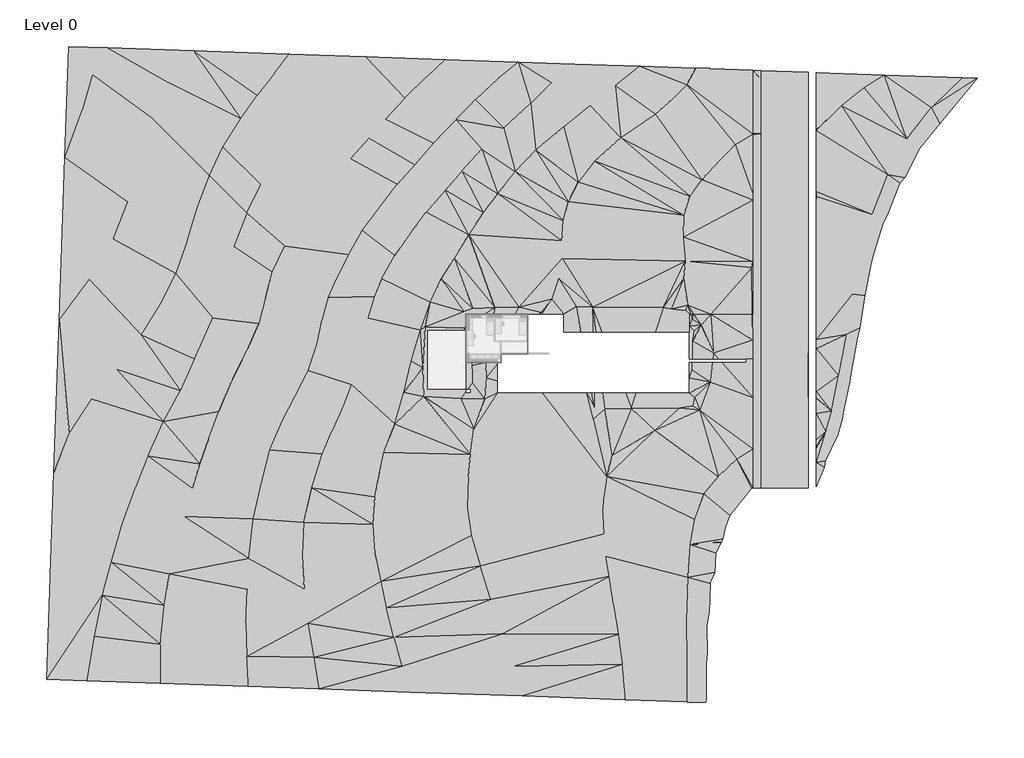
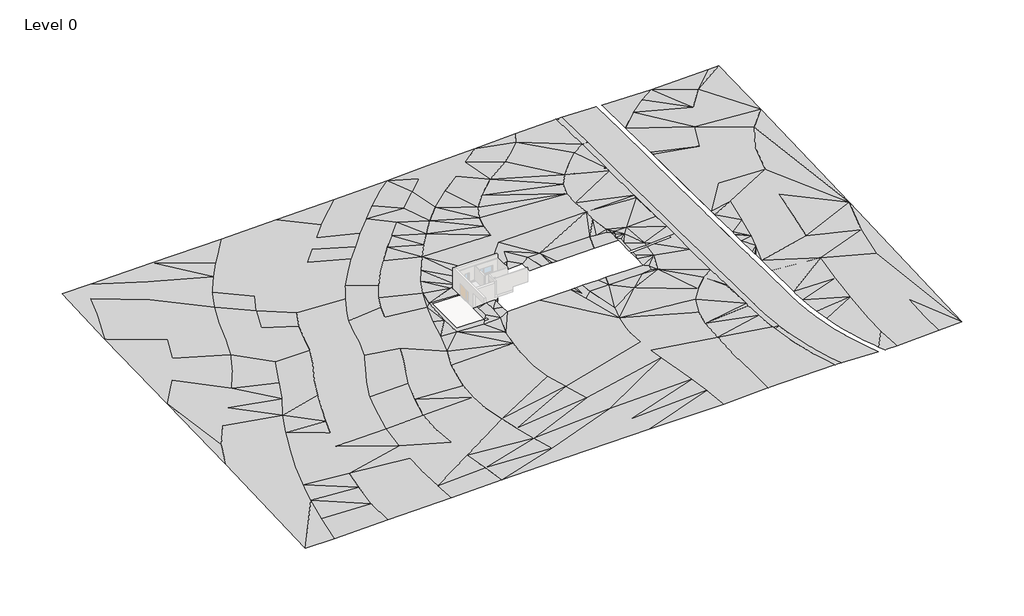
# One storey, part 2 of 2: 5 proxies.
"""IFC4 building model written with IfcOpenShell, lengths in millimetres."""

from ifc_helpers import new_model, si_unit, origin, place, context, project, spatial, triangles, element, save

model = new_model("IFC4")

# Units and contexts
model_context = context("Model", 3, world=origin())
ifc_project = project(units=[si_unit("LENGTHUNIT", "METRE", prefix="MILLI")], contexts=[model_context])

# Site, building, storey
site = spatial("IfcSite", under=ifc_project)
building = spatial("IfcBuilding", under=site)
storey = spatial("IfcBuildingStorey", under=building, Name="Level 0", Elevation=-600.0)

# Proxies
placement = place(None, origin())
element("IfcBuildingElementProxy", 1, Name="Building Element Proxy", at=placement, inside=storey, context=model_context, shape_type="Tessellation", body=[
    triangles([(62675.4813354, 39834.7592285, 500.0000038), (52813.8925781, 40179.1335571, 0.0), (44199.9997559, 40479.9384521, -99.9114706), (44199.9997559, 40477.7757935, -99.8740728), (44199.9997559, 40470.1669556, -99.7612435), (44199.9997559, 33283.15448, 0.0), (44199.9997559, 33281.3429626, 0.0637354), (44199.9997559, 33162.8501953, 1.412361), (44199.9997559, 25459.997113, 92.5713027), (44199.9997559, 24843.6114807, 100.0000008), (44199.9997559, 24154.9302612, 107.5494491), (44199.9997559, 15721.3415497, 200.0000015), (44199.9997559, 15598.8536774, 201.3711024), (44199.9997559, 6787.8083542, 300.0000023), (44199.9997559, 5639.6784348, 351.4946789), (44199.9997559, 167.286119, 427.0918814), (44199.9997559, -580.2686145, 401.8743436), (44199.9997559, -678.7061016, 402.7253454), (44199.9997559, -815.0331728, 404.2993046), (44199.9997559, -2579.7006775, 446.6362189), (44199.9997559, -5884.6937119, 500.0000038), (44199.9997559, -6738.3166077, 500.0000038), (44199.9997559, -6960.7408218, 504.2089039), (44199.9997559, -8790.5395981, 538.8338616), (44199.9997559, -11980.0361938, 603.3105947), (44199.9997559, -12033.5247894, 603.7311722), (44199.9997559, -18725.3419098, 700.0708586), (44199.9997559, -18726.726709, 700.0782709), (44199.9997559, -18728.290567, 700.0847385), (44199.9997559, -18763.760495, 700.5671946), (44199.9997559, -19440.043634, 710.8359718), (44241.6948853, -21521.9537659, 742.51071), (44366.7058594, -23600.5245667, 774.2601528), (44518.5849609, -25112.4601868, 797.4461649), (44535.3234741, -25279.0965271, 800.2659782), (44536.1420288, -25287.203009, 800.3105976), (44545.3414673, -25378.7997437, 801.2867008), (44574.8373413, -25672.4213562, 805.0710629), (44865.7544678, -27734.3280579, 831.7553352), (45238.9875, -29782.9309204, 858.3768934), (45693.9457764, -31814.9487488, 884.8932255), (45842.1925415, -32371.5403564, 892.187039), (45995.034375, -32945.3681213, 900.9259678), (46009.898584, -33001.1809937, 901.3053051), (46229.8898071, -33827.1236023, 912.3891489), (46845.9684814, -35816.227771, 940.7171436), (47541.1865112, -37779.070752, 970.3251474), (47895.8578857, -38665.8887146, 984.470941), (48311.874353, -39706.1019653, 980.0273169), (48314.4369873, -39712.5062256, 980.0480278), (50489.2112183, -39788.4504272, 1000.0000076), (57791.5515381, -40043.4534668, 1500.0000114), (61788.2378174, -40183.0216919, 1800.0000137), (63078.8567139, -3224.5165512, 1500.0000114), (64097.259668, 25938.7399841, 1000.0000076), (64580.1976318, 39768.2470093, 600.0000046), (29032.1976746, 41009.6084473, -500.0000038), (21941.3956055, 41257.2258911, -1000.0000076), (13657.7942505, 41546.4966064, -1500.0000114), (6632.065535, 41791.8397705, -2000.0000153), (-2690.8654037, 42117.4012939, -2500.0000191), (-12716.4098511, 42467.5008545, -3000.0000229), (-22333.341449, 42803.3315186, -3500.0000267), (-34451.2413208, 43226.5010376, -4000.0000305), (-45250.163562, 43603.608252, -4500.0000343), (-50149.8691406, 43774.709436, -4649.9998901), (-50640.5368652, 29723.8461548, -4500.0000343), (-51357.5442627, 9191.3639694, -4000.0000305), (-52030.1078613, -10068.240097, -3500.0000267), (-52941.8289551, -36176.5592651, -3170.0001114), (-47875.0963623, -36353.4926514, -3000.0000229), (-38571.968866, -36678.3658447, -2500.0000191), (-27447.2316284, -37066.8491089, -2000.0000153), (-18591.4814758, -37376.1, -1500.0000114), (-7024.2532242, -37780.0358093, -1000.0000076), (7111.8414825, -38273.677771, -500.0000038), (20142.6147034, -38728.7244141, 0.0), (27859.4460022, -38998.2009888, 500.0000038), (39617.2887817, -39408.7945313, 979.9999929), (39620.4560303, -39408.9061523, 979.9999929), (39615.242395, -39393.1954834, 979.7900494), (39592.0252075, -39323.2369629, 978.824556), (38908.0390503, -37262.2581116, 947.4351929), (38277.0333801, -35090.2860352, 918.016785), (37917.315802, -33651.7901184, 900.9052568), (37900.7447205, -33585.5243958, 900.0000069), (37897.1263367, -33571.053186, 899.8178959), (37891.2336731, -33547.4871826, 899.5252539), (37728.3389648, -32896.0757813, 889.617065), (37262.7301758, -30682.7434387, 859.1798967), (36880.8720886, -28453.4330017, 831.7234331), (36583.3088562, -26211.3186951, 807.286698), (36531.7631653, -25666.0217468, 802.1085983), (36515.5618286, -25494.6182556, 800.0000061), (36509.2459351, -25427.7897766, 799.0163452), (36491.581897, -25240.9337402, 796.3089523), (36370.4613831, -23959.5793945, 775.587252), (36242.6296509, -21701.4195557, 741.8023956), (36199.9996948, -19440.043634, 710.6949921), (36199.9996948, -18606.7293823, 699.7334518), (36199.9996948, -18601.1797211, 699.7258215), (36199.9996948, -18596.641626, 699.7049652), (36199.9996948, -18590.1536499, 699.6456665), (36199.9996948, -17865.8920441, 688.9390526), (36199.9996948, -11959.4700073, 600.0000046), (36199.9996948, -7036.0792465, 500.0000038), (36199.9996948, -556.9180049, 400.0000031), (36199.9996948, 4319.9999748, 332.7890256), (35399.9996887, 4319.9999748, 280.3834853), (35399.9996887, 3839.999913, 286.9985793), (32328.003479, 3839.999913, 85.7614803), (31127.8209229, 3839.999913, 0.0), (29734.1013428, 3839.999913, -61.6543353), (28550.7945007, 3839.999913, -109.999999), (28199.9996338, 3839.999913, -109.999999), (28199.9996338, 3609.8363457, -109.999999), (28199.9996338, 2690.4892639, -109.999999), (28199.9996338, 2561.2526756, -109.999999), (28199.9996338, 1908.4518242, -109.999999), (28199.9996338, 0.0, -109.999999), (27566.6336426, 0.0, -109.999999), (25707.2192322, 0.0, -109.999999), (23958.6794495, 0.0, -109.999999), (21504.6920288, 0.0, -109.999999), (20152.7954773, 0.0, -125.183311), (17283.7787384, 0.0, -125.5294744), (16200.1297668, 0.0, -158.2649581), (15910.6032532, 0.0, -158.236199), (15245.4891998, 0.0, -201.0687226), (9718.2539017, 0.0, -316.5175261), (3959.9998558, 0.0, -461.25444), (3959.9998558, 1533.9425617, -463.7577029), (3959.9998558, 3595.5587288, -500.0000038), (3959.9998558, 3839.999913, -500.0000038), (2489.8087807, 3839.999913, -500.0000038), (717.5372343, 3839.999913, -709.9999763), (0.0, 3839.999913, -709.9999763), (0.0, 7155.9585571, -709.9999763), (0.0, 7858.6488052, -691.9827621), (0.0, 8389.3065308, -712.4012833), (0.0, 8750.4914612, -718.4887024), (0.0, 9960.0001923, -741.8226706), (549.0953719, 9960.0001923, -738.43654), (2390.7577045, 9960.0001923, -736.9701324), (3518.6369705, 9960.0001923, -720.0488543), (6184.2940292, 9960.0001923, -718.6664532), (7800.0000595, 9960.0001923, -603.9825013), (9264.9414551, 9960.0001923, -500.0000038), (9316.5667923, 9960.0001923, -500.0000038), (9590.7122681, 9960.0001923, -494.2738635), (12360.0002106, 9960.0001923, -315.9350761), (12360.0002106, 7679.999826, -332.1779437), (14494.8117645, 7679.999826, -194.6986354), (16066.0984131, 7679.999826, -194.8546397), (16383.3348633, 7679.999826, -185.2713766), (17223.2347595, 7679.999826, -185.1700383), (23916.2518066, 7679.999826, -109.999999), (26317.5424438, 7679.999826, -109.999999), (27613.0377869, 7679.999826, -109.999999), (27867.9710632, 7679.999826, -109.999999), (28199.9996338, 7679.999826, -109.999999), (28199.9996338, 8461.4021301, -109.999999), (28199.9996338, 9512.5891296, -109.999999), (28199.9996338, 9830.969696, -109.999999), (28199.9996338, 9960.0001923, -109.999999), (28291.9149536, 9960.0001923, -109.999999), (28407.5683594, 9960.0001923, -97.5551373), (28792.5332336, 9960.0001923, 0.0), (30928.7726074, 9960.0001923, 37.5463115), (36170.1643066, 9960.0001923, 264.458458), (36199.9996948, 9960.0001923, 264.427864), (36199.9996948, 15865.8920288, 200.0000015), (36199.9996948, 16593.2615845, 192.1385083), (36199.9996948, 24352.2461243, 108.5469173), (36199.9996948, 25139.7096863, 99.9103623), (36199.9996948, 25142.1909302, 99.9101262), (36199.9996948, 25144.3814941, 99.9011514), (36199.9996948, 25146.8185547, 99.8778698), (36199.9996948, 25152.6530823, 99.8128483), (36199.9996948, 25166.5359558, 99.6477875), (36199.9996948, 32703.2852234, 0.0), (36199.9996948, 32724.904834, -0.9608008), (36199.9996948, 40755.7123169, -100.6891393), (36199.9996948, 40759.3027954, -100.7970179), (600.0000046, 0.0, -660.5117907), (0.0, 0.0, -701.8575954), (0.0, 162.9191435, -709.9999763), (0.0, 479.9999891, -709.9999763), (229.9707376, 479.9999891, -709.9999763), (600.0000046, 479.9999891, -684.5014601), (17785.0597687, -10539.9996735, 0.0), (17437.3914551, -12871.6573517, 0.0), (1020.5792747, -4531.0638359, -500.0000038), (518.5041069, -7734.6319565, -500.0000038), (269.882055, -10539.9996735, -500.0000038), (159.9114783, -14508.993457, -500.0000038), (10815.8165588, 11888.7138611, -500.0000038), (11691.8677368, 14459.9999359, -500.0000038), (12137.434726, 16959.4729523, -500.0000038), (655.4314322, -17979.9257812, -500.0000038), (-10346.5091583, -7499.8718674, -1000.0000076), (-11019.1739136, -10539.9996735, -1000.0000076), (-11497.3703064, -13133.3913757, -1000.0000076), (-11757.5323334, -16613.3196625, -1000.0000076), (-11482.3456421, -20106.2308777, -1000.0000076), (-3118.8869522, 14459.9999359, -1000.0000076), (-1502.4372173, 17074.1857178, -1000.0000076), (27492.182373, 14459.9999359, 0.0), (27666.9228699, 16682.0247711, 0.0), (34184.4878357, -8324.7819809, 500.0000038), (31872.168512, -10539.9996735, 500.0000038), (30046.977594, -12763.5383698, 500.0000038), (-8954.5493546, 17345.9063416, -1500.0000114), (-11578.9874176, 12182.533136, -1500.0000114), (-13183.5883118, 6460.6073959, -1500.0000114), (12087.2947632, 19234.2759613, -500.0000038), (-10616.9240479, 14459.9999359, -1500.0000114), (-16332.8019012, 14459.9999359, -2000.0000153), (-18196.6997589, 9135.8714264, -2000.0000153), (-19897.1575928, 2861.2186684, -2000.0000153), (-23189.1380493, -3524.1581451, -2000.0000153), (-24769.0416138, -7218.9215744, -2000.0000153), (-25864.4026611, -11505.3895844, -2000.0000153), (-26865.7415405, -15916.5017303, -2000.0000153), (-20467.3902283, -16330.3799561, -1500.0000114), (-19467.1082611, -11972.8180298, -1500.0000114), (-18138.8870087, -7688.4045456, -1500.0000114), (-15501.0294159, -1549.4827469, -1500.0000114), (-13779.6728577, 3681.9333984, -1500.0000114), (-12421.0069519, 9460.4144073, -1500.0000114), (-22866.0182373, 18570.6315857, -2500.0000191), (-24428.3949646, 15268.9656738, -2500.0000191), (-26157.3452454, 8807.4653091, -2500.0000191), (-27607.0474548, 5450.8405426, -2500.0000191), (-31175.1319885, -2313.5807293, -2500.0000191), (-32441.6337524, -5760.616983, -2500.0000191), (-33596.7330139, -8984.5201996, -2500.0000191), (-34532.6851868, -12038.5221588, -2500.0000191), (-35635.348114, -15592.0994385, -2500.0000191), (-20960.820575, 21543.5291931, -2500.0000191), (-19070.9475586, 24142.4705566, -2500.0000191), (-16802.0151215, 26729.9451782, -2500.0000191), (-14788.6938263, 17511.7241272, -2000.0000153), (-13095.9297089, 20523.1635681, -2000.0000153), (-10897.5615692, 23500.2097595, -2000.0000153), (-8647.2402054, 26403.1488464, -2000.0000153), (-6975.3120255, 20279.1435791, -1500.0000114), (-4994.2248093, 22853.0167053, -1500.0000114), (-2614.1087517, 25655.3270508, -1500.0000114), (361.8462636, 20042.7626587, -1000.0000076), (2201.2583702, 22782.5907715, -1000.0000076), (4025.0816391, 25202.8011841, -1000.0000076), (6258.6296082, 27941.9711975, -1000.0000076), (12318.7748199, 21808.2130371, -500.0000038), (12903.4391327, 24186.8608704, -500.0000038), (16274.1833862, 29288.0122925, -500.0000038), (27455.9171448, 19670.448175, 0.0), (28270.9464661, 24906.2797485, 0.0), (32015.9667114, 29437.5752563, 0.0), (-25870.6953003, 26309.0429626, -3000.0000229), (-27656.3095642, 22737.8144348, -3000.0000229), (-29306.3460571, 18472.584082, -3000.0000229), (-30599.2462097, 13692.0212311, -3000.0000229), (-31952.9286987, 9466.1942871, -3000.0000229), (-34271.8894775, 4278.4179199, -3000.0000229), (-32380.5584106, 27476.360083, -3500.0000267), (-33900.1191467, 23473.5625488, -3500.0000267), (-35196.7097717, 19206.453241, -3500.0000267), (-38595.8976379, 11205.8508911, -3500.0000267), (-41440.5449341, 29594.444751, -4000.0000305), (-30705.2002075, 31085.8002319, -3500.0000267), (-23672.9759583, 29571.7507874, -3000.0000229), (-36036.2027161, 329.8430935, -3000.0000229), (-36500.1836975, -19119.0876434, -2500.0000191), (-29576.7830383, 1556.081472, -2500.0000191), (-25350.2038147, 11954.3168335, -2500.0000191), (-14566.5132019, 29578.5852539, -2500.0000191), (-21555.6098511, -388.1904768, -2000.0000153), (-27410.2687683, -20897.2756165, -2000.0000153), (-20671.5405579, -20486.1983826, -1500.0000114), (-14476.0989532, 1084.1536646, -1500.0000114), (-16860.3557465, -4734.5223473, -1500.0000114), (-521.909931, 28019.824585, -1500.0000114), (-6463.5287292, 28827.9566528, -2000.0000153), (14176.1858643, 26665.7956055, -500.0000038), (1795.4909866, -21816.7241455, -500.0000038), (17261.4998657, -15127.9126556, 0.0), (17663.1962769, -20610.3977783, 0.0), (18068.4250305, -23150.8078308, 0.0), (17389.6315796, -17770.4083374, 0.0), (28246.7107361, -19100.8410828, 500.0000038), (28017.940979, -23279.041864, 500.0000038), (28808.7787537, -15989.1379944, 500.0000038), (-17393.6545898, 12080.7753937, -2000.0000153), (-18805.5974762, 6207.9710724, -2000.0000153), (2368.3175045, -773.4899237, -500.0000038), (44247.1782715, -6739.9636002, 500.0000038), (44216.2592285, 6787.2403656, 300.0000023), (44213.668689, 15720.8636719, 200.0000015), (44280.4925171, 24840.8000244, 100.0000008), (45405.5308228, -4846.0821075, 500.0000038), (46133.030603, -2276.4914234, 500.0000038), (47035.2499512, 2229.5832401, 500.0000038), (36112.1980774, -11959.089798, 600.0000046), (36116.053656, 15873.7834076, 200.0000015), (27991.8588501, 11127.4986969, 0.0), (23819.0321594, -4752.3823036, 0.0), (30833.2807617, 1375.9479904, 0.0), (29494.5973572, -2165.91576, 0.0), (18499.5859222, -7915.4982422, 0.0), (2542.6404396, 1911.5132652, -500.0000038), (9480.2771484, 10154.5139008, -500.0000038), (-4490.6825798, 11500.9665985, -1000.0000076), (-5769.6844528, 7932.4006989, -1000.0000076), (-7859.2063293, 74.3139641, -1000.0000076), (-9011.8882965, -3894.2512527, -1000.0000076), (-6927.6056351, 4074.3969429, -1000.0000076), (-10028.7018127, -27163.437323, -1000.0000076), (-9105.1994614, -30846.8101685, -1000.0000076), (-10781.3861023, -23778.0555908, -1000.0000076), (-8099.0672699, -34512.821283, -1000.0000076), (8826.8693573, 30656.270636, -1000.0000076), (12337.2295074, 33655.4015259, -1000.0000076), (15699.4405609, 36343.2537415, -1000.0000076), (18859.1221161, 38796.1598328, -1000.0000076), (3109.4622368, -26048.5007263, -500.0000038), (4583.7254471, -30410.8367798, -500.0000038), (5956.0300552, -34527.5947998, -500.0000038), (19527.9475708, 32270.4674561, -500.0000038), (23908.9522522, 35235.1353333, -500.0000038), (26075.9478882, 37149.0882751, -500.0000038), (27907.8895569, 38964.2053894, -500.0000038), (-20384.6092346, -24769.1532349, -1500.0000114), (-19959.4654175, -29109.2697144, -1500.0000114), (-19219.3373383, -33364.270459, -1500.0000114), (2020.3673767, 30782.7024536, -1500.0000114), (4766.3506371, 33450.1768433, -1500.0000114), (8173.0889145, 36647.2537903, -1500.0000114), (10804.8172302, 39208.1835205, -1500.0000114), (-4107.6114853, 31581.3537048, -2000.0000153), (-1261.2480148, 34516.5350098, -2000.0000153), (1208.2063396, 37064.6352905, -2000.0000153), (4064.231575, 39763.5310181, -2000.0000153), (-27633.5156067, -24771.0019592, -2000.0000153), (-27781.8925964, -29019.9519104, -2000.0000153), (-27646.7171265, -33283.5358521, -2000.0000153), (-12204.7329437, 32216.9567688, -2500.0000191), (-10167.2712616, 34569.6294434, -2500.0000191), (-7717.243483, 37275.1782532, -2500.0000191), (-4949.7379898, 39936.6785889, -2500.0000191), (-37482.3586304, -22863.6951233, -2500.0000191), (-38055.6282898, -26807.2567383, -2500.0000191), (-38594.4558655, -31719.6661926, -2500.0000191), (-21449.9186279, 32503.4648621, -3000.0000229), (-19081.6317902, 35291.045874, -3000.0000229), (-16786.5602509, 38063.2696838, -3000.0000229), (-14596.5171844, 40422.0303589, -3000.0000229), (-38200.0752869, -3613.1547478, -3000.0000229), (-40141.5823608, -7934.4656891, -3000.0000229), (-41717.769873, -11958.8816711, -3000.0000229), (-43404.387854, -16551.3990234, -3000.0000229), (-44790.4009277, -21373.4744568, -3000.0000229), (-45881.0552856, -25549.7079163, -3000.0000229), (-46933.3957031, -30709.9743347, -3000.0000229), (-28417.2328857, 34688.1780212, -3500.0000267), (-26334.2344482, 37631.0774597, -3500.0000267), (-24204.1086548, 40355.3228027, -3500.0000267), (-36640.9704529, 15097.3121979, -3500.0000267), (-41001.8089233, 7310.767131, -3500.0000267), (-44149.0028687, 3059.9678741, -3500.0000267), (-47258.7990967, -779.7315485, -3500.0000267), (-50065.0836182, -5132.0018646, -3500.0000267), (-47531.4103638, 14353.0041412, -4000.0000305), (-44521.8219727, 19438.3611786, -4000.0000305), (-42694.2544556, 24127.534259, -4000.0000305), (-39700.2093018, 34798.3364136, -4000.0000305), (-37494.0416382, 39199.7282227, -4000.0000305), (-47157.1913452, 40199.225354, -4500.0000343), (-48452.8145874, 35728.7889221, -4500.0000343), (18631.0767334, -26639.6832458, 0.0), (19241.3476227, -30505.6798279, 0.0), (19747.1527954, -34271.9127319, 0.0), (33980.4398254, 31367.4086243, 0.0), (36502.3393799, -25495.4275085, 800.0000061), (37897.8588501, -33585.8987915, 900.0000069), (27795.621991, -28795.5051453, 500.0000038), (27867.5013245, -33694.7781921, 500.0000038), (48005.1395874, 7402.9923157, 500.0000038), (49818.2428711, 17722.8740295, 500.0000038), (48751.1359131, 12488.8132782, 500.0000038), (51292.6970581, 22563.8459839, 500.0000038), (55626.8743652, 32158.5556824, 500.0000038), (58768.8918823, 36043.2394958, 500.0000038), (53245.1918335, 27565.1686157, 500.0000038), (50262.2855347, -35164.0885071, 1000.0000076), (50421.6944092, -30034.5434692, 1000.0000076), (51347.6518433, -19242.60336, 1000.0000076), (50798.9039429, -24737.6109741, 1000.0000076), (52091.7366577, -13433.0486664, 1000.0000076), (54067.1556152, -1581.0279144, 1000.0000076), (55130.4814087, 4657.9639389, 1000.0000076), (53103.7539551, -7149.7856781, 1000.0000076), (56609.4143921, 11566.1905243, 1000.0000076), (58229.7666504, 17469.3209015, 1000.0000076), (60826.1151489, 22217.5275879, 1000.0000076), (57727.3973145, -35608.5683533, 1500.0000114), (57915.4323486, -30457.531604, 1500.0000114), (58615.3198608, -24434.56203, 1500.0000114), (59755.3293457, -17269.5970459, 1500.0000114), (60923.0394653, -10627.3920135, 1500.0000114), (47389.1957886, 36276.5485107, 0.0), (50253.3372437, 38551.6677795, 0.0), (27478.9575989, 22445.5276245, 0.0), (29784.2796753, 26945.6506165, 0.0), (17517.8423584, -1996.3596851, -109.999999), (20894.299054, -1943.8942829, -109.999999), (23851.4371582, -1906.7597763, -109.999999), (26933.5327515, -1907.6464954, -109.999999), (28659.1134705, -1638.7049171, -109.999999), (28867.9797913, -575.3410446, -109.999999), (28528.7493347, 2899.0314766, -109.999999), (27738.3138611, 10448.7901245, -109.999999), (25936.0215454, 10620.690097, -109.999999), (24887.29021, 10772.4285095, -109.999999), (16010.6192413, 10858.9371826, -210.0000089), (13900.6782623, 10902.8949646, -210.0000089), (6713.6913666, 10836.9594543, -750.0000057), (3658.6723183, 10793.0016724, -750.0000057), (867.396183, 10661.1306519, -750.0000057), (-297.7804793, 10288.6824554, -750.0000057), (-233.6642258, 8235.7920639, -709.9999763), (-5132.748912, 8331.4036697, -709.9999763), (-5462.4270447, 3254.3580437, -709.9999763), (-5308.5771332, -460.0173426, -709.9999763), (-627.1454407, -701.7814373, -709.9999763), (823.4390551, 1298.2669762, -709.9999763), (801.4605274, 3452.1651558, -709.9999763), (16230.4046631, -1734.7734718, -150.0000011), (16076.5547516, -3251.2936958, -150.0000011)], [[70, 71, 364], [364, 71, 72], [70, 364, 363], [352, 353, 345], [72, 353, 364], [344, 351, 352], [364, 353, 363], [363, 353, 352], [362, 274, 361], [362, 363, 352], [69, 363, 362], [70, 363, 69], [274, 239, 361], [274, 351, 279], [361, 239, 360], [224, 238, 239], [239, 274, 279], [274, 362, 351], [352, 351, 362], [360, 239, 238], [72, 346, 353], [69, 362, 361], [333, 344, 345], [346, 345, 353], [334, 345, 346], [345, 344, 352], [73, 74, 335], [320, 333, 334], [334, 346, 335], [334, 335, 319], [335, 346, 73], [346, 72, 73], [333, 345, 334], [279, 280, 224], [280, 279, 333], [224, 280, 225], [279, 224, 239], [204, 225, 280], [333, 205, 280], [224, 225, 223], [226, 225, 204], [226, 202, 227], [205, 204, 280], [279, 344, 333], [238, 224, 223], [335, 74, 321], [344, 279, 351], [226, 223, 225], [69, 360, 372], [360, 69, 361], [372, 360, 359], [69, 372, 68], [358, 359, 237], [359, 360, 238], [235, 236, 222], [372, 359, 371], [237, 359, 238], [236, 358, 237], [68, 371, 370], [370, 371, 358], [369, 370, 273], [68, 370, 369], [358, 235, 273], [235, 358, 236], [265, 369, 273], [275, 265, 273], [273, 235, 275], [273, 370, 358], [371, 359, 358], [269, 369, 265], [236, 237, 223], [372, 371, 68], [222, 227, 221], [222, 223, 226], [221, 275, 235], [221, 235, 222], [282, 278, 221], [201, 282, 227], [278, 228, 220], [228, 278, 282], [228, 282, 201], [282, 221, 227], [226, 227, 222], [221, 278, 275], [278, 234, 275], [278, 220, 234], [233, 234, 220], [275, 234, 265], [229, 295, 220], [315, 229, 281], [220, 295, 233], [215, 295, 229], [215, 229, 317], [229, 220, 281], [228, 281, 220], [264, 265, 234], [281, 228, 316], [222, 236, 223], [238, 223, 237], [215, 219, 295], [204, 203, 226], [196, 204, 200], [320, 205, 333], [318, 320, 334], [205, 320, 200], [319, 326, 318], [321, 319, 335], [75, 321, 74], [286, 320, 318], [318, 334, 319], [327, 319, 321], [201, 202, 195], [196, 202, 203], [202, 201, 227], [203, 202, 226], [194, 434, 316], [201, 194, 316], [188, 434, 435], [193, 435, 434], [196, 195, 202], [316, 434, 315], [204, 196, 203], [316, 315, 281], [321, 75, 327], [204, 205, 200], [191, 194, 195], [196, 192, 195], [286, 200, 320], [196, 200, 287], [327, 289, 326], [328, 327, 75], [286, 290, 200], [326, 319, 327], [288, 286, 326], [75, 76, 328], [286, 318, 326], [328, 381, 327], [296, 193, 131], [194, 130, 193], [193, 296, 435], [194, 193, 434], [129, 439, 438], [438, 439, 415], [127, 128, 438], [425, 154, 155], [191, 439, 130], [191, 130, 194], [435, 296, 185], [328, 76, 382], [195, 194, 201], [129, 438, 128], [315, 434, 433], [435, 186, 187], [435, 187, 188], [137, 188, 436], [296, 190, 185], [189, 436, 188], [435, 185, 186], [434, 188, 433], [317, 433, 314], [433, 317, 315], [432, 314, 433], [317, 314, 215], [432, 433, 138], [140, 431, 139], [139, 431, 138], [138, 433, 137], [433, 188, 137], [314, 230, 215], [190, 436, 189], [317, 229, 315], [437, 436, 311], [437, 136, 137], [190, 296, 436], [135, 437, 311], [193, 130, 131], [131, 132, 311], [132, 133, 311], [311, 296, 131], [436, 296, 311], [135, 133, 134], [135, 136, 437], [151, 152, 153], [311, 133, 135], [437, 137, 436], [439, 129, 130], [425, 153, 154], [228, 201, 316], [431, 432, 138], [369, 373, 68], [369, 269, 373], [374, 373, 269], [67, 68, 373], [264, 233, 263], [269, 265, 264], [262, 263, 232], [269, 264, 368], [233, 264, 234], [263, 368, 264], [375, 374, 268], [368, 374, 269], [268, 374, 368], [373, 374, 67], [268, 262, 267], [268, 368, 263], [266, 267, 261], [261, 267, 262], [261, 262, 231], [268, 267, 375], [263, 262, 268], [270, 375, 267], [276, 263, 233], [375, 67, 374], [276, 219, 294], [219, 276, 233], [294, 219, 230], [232, 276, 294], [214, 218, 294], [213, 217, 313], [218, 217, 243], [217, 218, 214], [313, 217, 214], [214, 294, 230], [215, 230, 219], [232, 294, 218], [231, 243, 240], [231, 232, 218], [231, 240, 261], [232, 231, 262], [243, 213, 244], [231, 218, 243], [241, 243, 244], [247, 245, 244], [245, 248, 246], [240, 243, 241], [217, 213, 243], [261, 240, 260], [230, 314, 214], [276, 232, 263], [295, 219, 233], [242, 244, 245], [379, 67, 270], [67, 375, 270], [376, 270, 266], [379, 270, 376], [266, 260, 271], [260, 266, 261], [376, 271, 377], [272, 365, 271], [365, 354, 366], [266, 271, 376], [267, 266, 270], [377, 271, 365], [66, 379, 378], [379, 66, 67], [379, 376, 378], [66, 378, 65], [365, 64, 377], [378, 376, 377], [64, 65, 377], [366, 367, 64], [377, 65, 378], [366, 64, 365], [272, 271, 260], [354, 272, 242], [241, 272, 260], [242, 272, 241], [355, 366, 354], [245, 277, 242], [242, 241, 244], [354, 277, 355], [347, 277, 246], [347, 284, 348], [242, 277, 354], [246, 277, 245], [355, 277, 347], [63, 367, 356], [367, 366, 355], [356, 367, 355], [367, 63, 64], [356, 348, 357], [356, 355, 347], [62, 63, 357], [349, 62, 357], [357, 348, 349], [357, 63, 356], [347, 348, 356], [347, 246, 284], [354, 365, 272], [241, 260, 240], [247, 244, 213], [141, 430, 431], [141, 431, 140], [432, 431, 430], [429, 143, 144], [428, 144, 145], [206, 429, 207], [430, 206, 313], [206, 207, 247], [206, 247, 213], [430, 142, 429], [430, 313, 432], [429, 428, 207], [429, 142, 143], [144, 428, 429], [430, 429, 206], [141, 142, 430], [250, 207, 428], [145, 146, 428], [206, 213, 313], [147, 427, 146], [312, 147, 148], [149, 150, 312], [197, 150, 151], [150, 197, 312], [149, 312, 148], [427, 147, 312], [427, 197, 198], [427, 312, 197], [198, 197, 426], [427, 198, 199], [425, 199, 198], [197, 151, 426], [257, 216, 199], [427, 199, 250], [216, 257, 254], [425, 198, 426], [153, 426, 151], [428, 427, 250], [153, 425, 426], [146, 427, 428], [250, 199, 216], [249, 246, 248], [247, 207, 248], [246, 249, 284], [340, 348, 284], [250, 251, 249], [250, 216, 251], [249, 283, 284], [283, 249, 251], [283, 252, 336], [250, 249, 248], [207, 250, 248], [284, 283, 340], [350, 349, 341], [349, 348, 340], [341, 349, 340], [350, 61, 62], [342, 341, 337], [336, 341, 340], [61, 342, 343], [61, 350, 342], [341, 336, 337], [342, 350, 341], [340, 283, 336], [350, 62, 349], [283, 251, 252], [245, 247, 248], [253, 337, 336], [253, 252, 254], [337, 253, 322], [337, 343, 342], [255, 322, 253], [285, 255, 413], [322, 285, 323], [285, 322, 255], [413, 255, 254], [255, 253, 254], [251, 216, 252], [337, 322, 338], [343, 338, 60], [338, 343, 337], [60, 338, 339], [343, 60, 61], [323, 324, 339], [256, 324, 323], [339, 59, 60], [59, 339, 324], [324, 325, 59], [323, 339, 338], [338, 322, 323], [256, 323, 285], [336, 252, 253], [254, 252, 216], [209, 199, 425], [214, 314, 313], [432, 313, 314], [127, 438, 126], [328, 382, 381], [381, 380, 327], [382, 77, 387], [381, 382, 387], [381, 387, 386], [387, 77, 78], [90, 386, 387], [384, 386, 92], [381, 386, 380], [289, 380, 292], [289, 327, 380], [380, 386, 292], [289, 292, 288], [384, 95, 96], [95, 384, 94], [97, 292, 96], [96, 292, 384], [386, 384, 292], [292, 97, 98], [387, 78, 84], [289, 288, 326], [87, 385, 86], [385, 87, 88], [86, 385, 85], [82, 83, 78], [85, 385, 387], [83, 84, 78], [387, 84, 85], [384, 93, 94], [93, 384, 92], [88, 89, 385], [90, 91, 386], [89, 90, 387], [92, 386, 91], [385, 89, 387], [78, 79, 82], [192, 287, 293], [290, 287, 200], [293, 287, 290], [191, 195, 192], [291, 293, 290], [288, 292, 291], [307, 191, 212], [191, 192, 293], [291, 104, 293], [290, 288, 291], [290, 286, 288], [310, 439, 191], [415, 310, 416], [415, 439, 310], [416, 310, 307], [125, 415, 416], [307, 418, 417], [419, 418, 309], [416, 417, 124], [418, 122, 417], [309, 418, 307], [307, 417, 416], [310, 191, 307], [121, 418, 419], [212, 191, 293], [438, 415, 126], [104, 212, 293], [103, 291, 102], [100, 291, 99], [101, 102, 291], [101, 291, 100], [103, 104, 291], [307, 211, 309], [211, 307, 212], [211, 212, 304], [309, 211, 210], [304, 105, 210], [304, 212, 104], [210, 106, 309], [106, 210, 105], [304, 210, 211], [104, 105, 304], [107, 309, 106], [99, 291, 98], [292, 98, 291], [420, 419, 309], [382, 76, 77], [81, 79, 80], [79, 81, 82], [41, 42, 396], [40, 41, 396], [36, 398, 35], [35, 398, 34], [40, 396, 39], [38, 398, 37], [37, 398, 36], [39, 398, 38], [42, 43, 396], [48, 49, 51], [395, 47, 48], [51, 52, 406], [395, 48, 51], [50, 51, 49], [406, 52, 53], [395, 44, 45], [395, 45, 46], [395, 406, 407], [395, 46, 47], [396, 398, 39], [407, 396, 395], [406, 53, 407], [395, 396, 44], [51, 406, 395], [44, 396, 43], [53, 408, 407], [398, 396, 407], [24, 25, 399], [25, 26, 399], [397, 27, 28], [397, 28, 29], [399, 26, 27], [29, 30, 397], [302, 18, 19], [20, 302, 19], [22, 23, 297], [297, 21, 22], [301, 20, 21], [24, 301, 23], [30, 31, 397], [32, 33, 398], [398, 33, 34], [32, 398, 397], [397, 408, 409], [408, 397, 398], [399, 409, 410], [409, 399, 397], [53, 409, 408], [399, 27, 397], [398, 407, 408], [402, 24, 399], [301, 302, 20], [297, 23, 301], [302, 301, 402], [301, 21, 297], [402, 410, 54], [24, 402, 301], [400, 54, 401], [54, 400, 402], [409, 53, 410], [402, 400, 302], [399, 410, 402], [18, 302, 17], [54, 410, 53], [31, 32, 397], [303, 302, 400], [126, 415, 125], [125, 416, 124], [123, 417, 122], [122, 418, 121], [417, 123, 124], [156, 157, 424], [424, 425, 156], [159, 160, 162], [158, 159, 162], [157, 158, 424], [117, 118, 421], [308, 119, 120], [119, 308, 421], [421, 118, 119], [107, 111, 308], [114, 116, 421], [116, 117, 421], [421, 308, 113], [120, 420, 308], [121, 419, 120], [115, 116, 114], [421, 113, 114], [308, 112, 113], [111, 112, 308], [111, 107, 110], [420, 309, 308], [120, 419, 420], [160, 161, 162], [199, 209, 257], [424, 158, 423], [208, 424, 423], [413, 254, 257], [305, 209, 208], [423, 306, 208], [258, 256, 413], [413, 174, 258], [209, 173, 257], [209, 424, 208], [423, 163, 422], [285, 413, 256], [329, 325, 324], [329, 256, 258], [325, 329, 330], [329, 324, 256], [330, 331, 58], [259, 331, 330], [58, 332, 57], [332, 58, 331], [332, 331, 383], [330, 58, 325], [329, 414, 330], [325, 58, 59], [422, 306, 423], [424, 209, 425], [165, 422, 164], [164, 422, 163], [167, 422, 166], [167, 168, 306], [167, 306, 422], [166, 422, 165], [259, 330, 414], [174, 413, 257], [414, 329, 258], [169, 208, 306], [414, 180, 259], [174, 414, 258], [332, 183, 57], [180, 383, 259], [305, 208, 169], [383, 331, 259], [306, 168, 169], [182, 332, 383], [423, 158, 163], [162, 163, 158], [425, 155, 156], [110, 108, 109], [108, 110, 107], [15, 16, 303], [14, 15, 298], [309, 107, 308], [172, 305, 170], [305, 169, 170], [172, 170, 171], [174, 257, 173], [172, 173, 305], [209, 305, 173], [16, 17, 302], [174, 175, 414], [390, 13, 298], [298, 13, 14], [388, 15, 303], [298, 15, 388], [388, 401, 403], [401, 388, 303], [13, 390, 299], [403, 390, 388], [403, 54, 404], [388, 390, 298], [302, 303, 16], [389, 390, 403], [12, 299, 11], [299, 12, 13], [11, 299, 389], [389, 404, 391], [389, 299, 390], [11, 391, 300], [405, 391, 404], [404, 54, 405], [389, 391, 11], [403, 404, 389], [394, 391, 405], [401, 54, 403], [400, 401, 303], [177, 414, 176], [414, 177, 178], [414, 179, 180], [383, 180, 181], [178, 179, 414], [183, 332, 182], [183, 184, 57], [394, 8, 9], [8, 411, 7], [181, 182, 383], [9, 10, 300], [175, 176, 414], [6, 7, 411], [9, 300, 391], [8, 394, 411], [6, 411, 5], [394, 55, 392], [9, 391, 394], [411, 392, 412], [393, 392, 55], [55, 56, 393], [394, 392, 411], [405, 55, 394], [2, 392, 393], [4, 5, 412], [3, 4, 412], [1, 2, 393], [1, 393, 56], [2, 412, 392], [412, 2, 3], [5, 411, 412], [10, 11, 300], [405, 54, 55], [196, 287, 192]], closed=False),
])
element("IfcBuildingElementProxy", 2, Name="Building Element Proxy", at=placement, inside=storey, context=model_context, shape_type="Tessellation", body=[
    triangles([(43181.6805176, 40515.4990723, -100.0000008), (37203.5361145, 40724.2584229, -100.0000008), (37199.9991211, 40724.3839966, -100.0000008), (37199.9991211, 39671.6947632, -86.6964796), (37199.9991211, 32813.720343, 0.0), (37199.9991211, 32782.3641174, 0.3775577), (37199.9991211, 25025.3120178, 100.0000008), (37199.9991211, 15908.9126587, 198.5837907), (37199.9991211, 15779.7519379, 200.0000015), (37199.9991211, 15651.9027649, 201.4311097), (37199.9991211, 6719.0625504, 300.0000023), (37199.9991211, 6686.3662903, 300.4406549), (37199.9991211, -516.6359433, 400.0000031), (37199.9991211, -544.085794, 400.4496486), (37199.9991211, -6997.0037247, 500.0000038), (37199.9991211, -6998.7687332, 500.0334683), (37199.9991211, -11963.7174225, 600.0000046), (37199.9991211, -18366.1940643, 696.1991472), (37199.9991211, -18619.0902557, 700.0000053), (37199.9991211, -18662.7050354, 700.6330336), (37199.9991211, -19440.043634, 712.0087927), (37243.5825073, -21707.3866333, 745.2285673), (37374.2652283, -23971.3809998, 778.4773373), (37479.7959961, -25066.1630127, 794.5930687), (37513.2939514, -25413.6743591, 799.6886152), (37515.3008057, -25434.4893677, 800.0000061), (37542.2945068, -25714.5094849, 803.4851131), (37591.8565979, -26228.680426, 809.8311647), (37896.0333801, -28475.9502319, 837.7060621), (38286.3490906, -30709.8696899, 865.554217), (38695.5078369, -32616.2951843, 889.4398956), (38762.2223694, -32927.1413269, 893.3128424), (38880.3128357, -33389.9061035, 899.0808043), (38898.2815063, -33460.3157593, 900.0000069), (39159.5167236, -34484.0276917, 913.6351484), (39322.9532593, -35124.4862732, 922.2167467), (39967.7139038, -37298.6582153, 951.3063229), (40695.5531982, -39446.4480469, 979.9999929), (40728.360498, -39447.5921631, 979.9999929), (47214.4576172, -39674.0946167, 979.9999929), (46380.4620117, -37523.5607666, 953.9988184), (45640.8234375, -35338.7778442, 927.5374249), (44996.94646, -33123.880481, 900.6660273), (44988.3376831, -33088.5965881, 900.2372017), (44983.9844604, -33070.7720947, 900.0000069), (44450.0496094, -30883.066095, 871.4600338), (44001.1700317, -28620.5786133, 842.0294174), (43651.1588379, -26340.7038208, 812.4567312), (43569.1266357, -25589.7984924, 802.743952), (43545.8861938, -25377.0649658, 800.0000061), (43537.044873, -25296.1210693, 798.7576401), (43514.4369507, -25089.177887, 795.6694565), (43400.6718018, -24047.7577332, 780.0871954), (43250.1926147, -21746.0842712, 745.6623344), (43200.0003296, -19440.043634, 711.1860958), (43200.0003296, -18717.1447357, 700.380578), (43200.0003296, -18691.7369843, 700.0000053), (43200.0003296, -18682.6538177, 699.8644758), (43200.0003296, -11988.0205902, 600.0000046), (43200.0003296, -11640.558078, 593.4250062), (43200.0003296, -8782.1186005, 539.3352845), (43200.0003296, -6707.3708221, 500.0000038), (43200.0003296, -6656.3843994, 499.2134239), (43200.0003296, -3825.6746246, 452.8434345), (43200.0003296, -699.7119415, 402.3703526), (43200.0003296, -600.9115405, 400.0000031), (43200.0003296, -560.0916484, 401.3769902), (43200.0003296, 5044.39384, 323.9550445), (43200.0003296, 6821.8510437, 300.0000023), (43200.0003296, 6846.8942825, 299.7236565), (43200.0003296, 15755.8208405, 200.0000015), (43200.0003296, 24756.1121704, 101.3148006), (43200.0003296, 24877.6954468, 100.0000008), (43200.0003296, 24981.1495972, 98.6713482), (43200.0003296, 32874.7026672, 3.6300556), (43200.0003296, 33152.5089661, 0.2819413), (43200.0003296, 33176.3330933, 0.0), (43200.0003296, 40385.2140015, -98.1988571), (43200.0003296, 40514.857251, -100.0000008), (37204.4453613, -18619.1739716, 700.0000053), (43198.7445923, -18691.6928009, 700.0000053), (43126.3025024, -11985.4474915, 600.0000046), (43146.4501099, -599.0415602, 400.0000031), (43196.9447021, 33176.0098572, 0.0), (43528.7291016, -25378.7648621, 800.0000061)], [[22, 23, 54], [25, 52, 24], [24, 53, 23], [52, 25, 26], [80, 20, 56], [56, 20, 21], [21, 22, 55], [81, 18, 80], [20, 80, 19], [27, 52, 26], [35, 45, 34], [37, 38, 39], [36, 43, 35], [46, 33, 34], [29, 48, 28], [29, 30, 47], [46, 30, 31], [32, 46, 31], [46, 32, 33], [85, 27, 28], [36, 37, 42], [19, 80, 18], [9, 71, 8], [74, 6, 7], [1, 4, 78], [6, 75, 5], [4, 5, 84], [3, 4, 2], [9, 10, 71], [61, 16, 17], [64, 14, 15], [16, 62, 15], [17, 82, 60], [14, 65, 83], [17, 18, 82], [11, 12, 69], [2, 4, 1], [13, 14, 83], [68, 12, 13], [7, 8, 72], [70, 10, 11], [83, 68, 13], [18, 58, 82], [37, 39, 42], [53, 54, 23], [52, 85, 51], [52, 53, 24], [51, 85, 50], [27, 85, 52], [58, 59, 82], [58, 81, 57], [81, 56, 57], [81, 80, 56], [21, 55, 56], [54, 55, 22], [43, 44, 35], [41, 42, 39], [40, 41, 39], [43, 36, 42], [49, 50, 85], [49, 85, 28], [46, 47, 30], [45, 46, 34], [48, 29, 47], [44, 45, 35], [28, 48, 49], [14, 64, 65], [63, 64, 15], [15, 62, 63], [65, 66, 83], [68, 83, 67], [66, 67, 83], [68, 69, 12], [71, 10, 70], [11, 69, 70], [71, 72, 8], [61, 62, 16], [17, 60, 61], [74, 7, 73], [75, 6, 74], [76, 84, 75], [77, 84, 76], [78, 79, 1], [77, 78, 84], [5, 75, 84], [7, 72, 73], [59, 60, 82], [78, 4, 84], [58, 18, 81]], closed=False),
])
element("IfcBuildingElementProxy", 3, Name="Building Element Proxy", at=placement, inside=storey, context=model_context, shape_type="Tessellation", body=[
    triangles([(36214.3104492, 40758.8051514, -100.0000008), (36199.9996948, 40759.3027954, -100.7970179), (36199.9996948, 40755.7123169, -100.6891393), (36199.9996948, 32724.904834, -0.9608008), (36199.9996948, 32703.2852234, 0.0), (36199.9996948, 25166.5359558, 99.6477875), (36199.9996948, 25152.6530823, 99.8128483), (36199.9996948, 25146.8185547, 99.8778698), (36199.9996948, 25144.3814941, 99.9011514), (36199.9996948, 25142.1909302, 99.9101262), (36199.9996948, 25139.7096863, 99.9103623), (36199.9996948, 24352.2461243, 108.5469173), (36199.9996948, 16593.2615845, 192.1385083), (36199.9996948, 15865.8920288, 200.0000015), (36199.9996948, 6699.2172501, 300.0000023), (36199.9996948, -556.9180049, 400.0000031), (36199.9996948, -7036.0792465, 500.0000038), (36199.9996948, -11959.4700073, 600.0000046), (36199.9996948, -17865.8920441, 688.9390526), (36199.9996948, -18590.1536499, 699.6456665), (36199.9996948, -18596.641626, 699.7049652), (36199.9996948, -18601.1797211, 699.7258215), (36199.9996948, -18606.7293823, 699.7334518), (36199.9996948, -19440.043634, 710.6949921), (36242.6296509, -21701.4195557, 741.8023956), (36370.4613831, -23959.5793945, 775.587252), (36491.581897, -25240.9337402, 796.3089523), (36509.2459351, -25427.7897766, 799.0163452), (36515.5618286, -25494.6182556, 800.0000061), (36531.7631653, -25666.0217468, 802.1085983), (36583.3088562, -26211.3186951, 807.286698), (36880.8720886, -28453.4330017, 831.7234331), (37262.7301758, -30682.7434387, 859.1798967), (37728.3389648, -32896.0757813, 889.617065), (37891.2336731, -33547.4871826, 899.5252539), (37897.1263367, -33571.053186, 899.8178959), (37900.7447205, -33585.5243958, 900.0000069), (37917.315802, -33651.7901184, 900.9052568), (38277.0333801, -35090.2860352, 918.016785), (38908.0390503, -37262.2581116, 947.4351929), (39592.0252075, -39323.2369629, 978.824556), (39615.242395, -39393.1954834, 979.7900494), (39620.4560303, -39408.9061523, 979.9999929), (40695.5531982, -39446.4480469, 979.9999929), (39967.7139038, -37298.6582153, 951.3063229), (39322.9532593, -35124.4862732, 922.2167467), (39159.5167236, -34484.0276917, 913.6351484), (38898.2815063, -33460.3157593, 900.0000069), (38880.3128357, -33389.9061035, 899.0808043), (38762.2223694, -32927.1413269, 893.3128424), (38695.5078369, -32616.2951843, 889.4398956), (38286.3490906, -30709.8696899, 865.554217), (37896.0333801, -28475.9502319, 837.7060621), (37591.8565979, -26228.680426, 809.8311647), (37542.2945068, -25714.5094849, 803.4851131), (37515.3008057, -25434.4893677, 800.0000061), (37513.2939514, -25413.6743591, 799.6886152), (37479.7959961, -25066.1630127, 794.5930687), (37374.2652283, -23971.3809998, 778.4773373), (37243.5825073, -21707.3866333, 745.2285673), (37199.9991211, -19440.043634, 712.0087927), (37199.9991211, -18662.7050354, 700.6330336), (37199.9991211, -18619.0902557, 700.0000053), (37199.9991211, -18366.1940643, 696.1991472), (37199.9991211, -11963.7174225, 600.0000046), (37199.9991211, -6998.7687332, 500.0334683), (37199.9991211, -6997.0037247, 500.0000038), (37199.9991211, -544.085794, 400.4496486), (37199.9991211, -516.6359433, 400.0000031), (37199.9991211, 6686.3662903, 300.4406549), (37199.9991211, 6719.0625504, 300.0000023), (37199.9991211, 15651.9027649, 201.4311097), (37199.9991211, 15779.7519379, 200.0000015), (37199.9991211, 15908.9126587, 198.5837907), (37199.9991211, 25025.3120178, 100.0000008), (37199.9991211, 32782.3641174, 0.3775577), (37199.9991211, 32813.720343, 0.0), (37199.9991211, 39671.6947632, -86.6964796), (37199.9991211, 40724.3839966, -100.0000008), (37087.5036621, -11963.304657, 600.0000046), (37198.0155212, -6997.0990677, 500.0000038), (37172.6821838, -516.257369, 400.0000031), (37173.6821228, 6718.6114151, 300.0000023), (37112.6416626, 15780.1007538, 200.0000015), (37183.8559204, 25025.7073425, 100.0000008), (36210.9199585, -18600.4937164, 700.0000053), (36207.8457275, 25144.618689, 100.0000008), (37176.9540161, 32812.3297302, 0.0), (37495.5368958, -25434.6730774, 800.0000061), (38837.1898865, -33464.2271484, 900.0000069), (36215.9638367, 32712.8916138, 0.0)], [[23, 24, 86], [22, 86, 21], [86, 22, 23], [21, 86, 20], [19, 86, 64], [19, 80, 18], [19, 20, 86], [80, 17, 18], [82, 15, 16], [16, 17, 81], [80, 19, 65], [28, 89, 27], [55, 30, 31], [29, 30, 89], [29, 89, 28], [25, 61, 24], [26, 60, 25], [68, 82, 16], [80, 66, 17], [70, 15, 82], [81, 17, 66], [59, 26, 27], [62, 86, 24], [31, 32, 54], [83, 15, 70], [87, 8, 9], [11, 87, 10], [10, 87, 9], [87, 7, 8], [78, 3, 4], [91, 4, 5], [87, 6, 7], [91, 5, 76], [2, 3, 1], [12, 87, 11], [12, 85, 87], [14, 74, 13], [87, 85, 6], [84, 74, 14], [72, 84, 14], [83, 72, 15], [12, 13, 75], [72, 14, 15], [5, 6, 76], [1, 3, 78], [91, 88, 4], [91, 76, 88], [4, 88, 78], [78, 79, 1], [77, 78, 88], [88, 76, 77], [76, 6, 85], [85, 12, 75], [16, 81, 68], [35, 50, 34], [37, 90, 36], [36, 90, 35], [37, 38, 90], [32, 53, 54], [52, 33, 34], [55, 31, 54], [52, 53, 33], [51, 52, 34], [51, 34, 50], [38, 39, 47], [45, 40, 41], [44, 41, 42], [44, 45, 41], [44, 42, 43], [40, 45, 46], [50, 90, 49], [50, 35, 90], [49, 90, 48], [47, 48, 90], [90, 38, 47], [46, 47, 39], [40, 46, 39], [63, 86, 62], [65, 66, 80], [19, 64, 65], [64, 86, 63], [76, 85, 75], [75, 13, 74], [72, 73, 84], [74, 84, 73], [66, 67, 81], [72, 83, 71], [24, 61, 62], [27, 58, 59], [27, 89, 58], [58, 89, 57], [56, 57, 89], [55, 56, 89], [30, 55, 89], [70, 71, 83], [68, 69, 82], [67, 68, 81], [69, 70, 82], [60, 26, 59], [25, 60, 61], [32, 33, 53]], closed=False),
])
element("IfcBuildingElementProxy", 4, Name="Building Element Proxy", at=placement, inside=storey, context=model_context, shape_type="Tessellation", body=[
    triangles([(7800.0000595, 9960.0001923, -1000.1595182), (7800.0000595, 9960.0001923, -400.1595137), (7800.0000595, 8636.7135223, -1000.1595182), (7800.0000595, 8636.7135223, -400.1595137), (7800.0000595, 8158.0811096, -1000.1595182), (7800.0000595, 8158.0811096, -400.1595137), (7800.0000595, 4920.0002701, -1000.1595182), (7800.0000595, 4920.0002701, -400.1595137), (5074.7024551, 4920.0002701, -1000.1595182), (5074.7024551, 4920.0002701, -400.1595137), (4439.9999176, 4920.0002701, -1000.1595182), (4439.9999176, 4920.0002701, -400.1595137), (4439.9999176, 4165.8739174, -1000.1595182), (4439.9999176, 4165.8739174, -400.1595137), (4439.9999176, 3839.999913, -1000.1595182), (4439.9999176, 3839.999913, -400.1595137), (4165.7314842, 3839.999913, -1000.1595182), (4165.7314842, 3839.999913, -400.1595137), (3959.9998558, 3839.999913, -1000.1595182), (3959.9998558, 3839.999913, -400.1595137)], [[1, 4, 2], [1, 3, 4], [3, 6, 4], [3, 5, 6], [5, 8, 6], [5, 7, 8], [7, 10, 8], [7, 9, 10], [9, 12, 10], [9, 11, 12], [11, 14, 12], [11, 13, 14], [13, 16, 14], [13, 15, 16], [15, 18, 16], [15, 17, 18], [17, 20, 18], [17, 19, 20]], closed=False),
    triangles([(7800.0000595, 9960.0001923, -1000.1595182), (7800.0000595, 9960.0001923, -603.9825013), (6184.2940292, 9960.0001923, -1000.1595182), (6184.2940292, 9960.0001923, -718.6664532), (3518.6369705, 9960.0001923, -1000.1595182), (3518.6369705, 9960.0001923, -720.0488543), (2390.7577045, 9960.0001923, -1000.1595182), (2390.7577045, 9960.0001923, -736.9701324), (549.0953719, 9960.0001923, -1000.1595182), (549.0953719, 9960.0001923, -738.43654), (0.0, 9960.0001923, -1000.1595182), (0.0, 9960.0001923, -741.8226706), (0.0, 8750.4914612, -1000.1595182), (0.0, 8750.4914612, -718.4887024), (0.0, 8389.3065308, -1000.1595182), (0.0, 8389.3065308, -712.4012833), (0.0, 7858.6488052, -1000.1595182), (0.0, 7858.6488052, -691.9827621), (0.0, 7155.9585571, -1000.1595182), (0.0, 7155.9585571, -709.9999763), (0.0, 3839.999913, -1000.1595182), (0.0, 3839.999913, -709.9999763), (717.5372343, 3839.999913, -1000.1595182), (717.5372343, 3839.999913, -709.9999763), (2489.8087807, 3839.999913, -1000.1595182), (2489.8087807, 3839.999913, -500.0000038), (3959.9998558, 3839.999913, -1000.1595182), (3959.9998558, 3839.999913, -500.0000038)], [[1, 4, 2], [1, 3, 4], [3, 6, 4], [3, 5, 6], [5, 8, 6], [5, 7, 8], [7, 10, 8], [7, 9, 10], [9, 12, 10], [9, 11, 12], [11, 14, 12], [11, 13, 14], [13, 16, 14], [13, 15, 16], [15, 18, 16], [15, 17, 18], [17, 20, 18], [17, 19, 20], [19, 22, 20], [19, 21, 22], [21, 24, 22], [21, 23, 24], [23, 26, 24], [23, 25, 26], [25, 28, 26], [25, 27, 28]], closed=False),
    triangles([(7800.0000595, 9960.0001923, -1000.1595182), (7800.0000595, 9960.0001923, -603.9825013), (6184.2940292, 9960.0001923, -1000.1595182), (6184.2940292, 9960.0001923, -718.6664532), (3518.6369705, 9960.0001923, -1000.1595182), (3518.6369705, 9960.0001923, -720.0488543), (2390.7577045, 9960.0001923, -1000.1595182), (2390.7577045, 9960.0001923, -736.9701324), (549.0953719, 9960.0001923, -1000.1595182), (549.0953719, 9960.0001923, -738.43654), (0.0, 9960.0001923, -1000.1595182), (0.0, 9960.0001923, -741.8226706), (0.0, 8750.4914612, -1000.1595182), (0.0, 8750.4914612, -718.4887024), (0.0, 8389.3065308, -1000.1595182), (0.0, 8389.3065308, -712.4012833), (0.0, 7858.6488052, -1000.1595182), (0.0, 7858.6488052, -691.9827621), (0.0, 7155.9585571, -1000.1595182), (0.0, 7155.9585571, -709.9999763), (0.0, 3839.999913, -1000.1595182), (0.0, 3839.999913, -709.9999763), (717.5372343, 3839.999913, -1000.1595182), (717.5372343, 3839.999913, -709.9999763), (2489.8087807, 3839.999913, -1000.1595182), (2489.8087807, 3839.999913, -500.0000038), (3959.9998558, 3839.999913, -1000.1595182), (3959.9998558, 3839.999913, -500.0000038)], [[1, 4, 2], [1, 3, 4], [3, 6, 4], [3, 5, 6], [5, 8, 6], [5, 7, 8], [7, 10, 8], [7, 9, 10], [9, 12, 10], [9, 11, 12], [11, 14, 12], [11, 13, 14], [13, 16, 14], [13, 15, 16], [15, 18, 16], [15, 17, 18], [17, 20, 18], [17, 19, 20], [19, 22, 20], [19, 21, 22], [21, 24, 22], [21, 23, 24], [23, 26, 24], [23, 25, 26], [25, 28, 26], [25, 27, 28]], closed=False),
    triangles([(7800.0000595, 9960.0001923, -1000.1595182), (7800.0000595, 9960.0001923, -400.1595137), (7800.0000595, 4920.0002701, -1000.1595182), (7800.0000595, 4920.0002701, -400.1595137), (4439.9999176, 4920.0002701, -1000.1595182), (4439.9999176, 4920.0002701, -400.1595137), (4439.9999176, 3839.999913, -1000.1595182), (4439.9999176, 3839.999913, -400.1595137), (3959.9998558, 3839.999913, -1000.1595182), (3959.9998558, 3839.999913, -400.1595137)], [[1, 4, 2], [1, 3, 4], [3, 6, 4], [3, 5, 6], [5, 8, 6], [5, 7, 8], [7, 10, 8], [7, 9, 10]], closed=False),
    triangles([(7800.0000595, 9960.0001923, -1000.1595182), (7800.0000595, 9960.0001923, -400.1595137), (7800.0000595, 4920.0002701, -1000.1595182), (7800.0000595, 4920.0002701, -400.1595137), (4439.9999176, 4920.0002701, -1000.1595182), (4439.9999176, 4920.0002701, -400.1595137), (4439.9999176, 3839.999913, -1000.1595182), (4439.9999176, 3839.999913, -400.1595137), (3959.9998558, 3839.999913, -1000.1595182), (3959.9998558, 3839.999913, -400.1595137)], [[1, 4, 2], [1, 3, 4], [3, 6, 4], [3, 5, 6], [5, 8, 6], [5, 7, 8], [7, 10, 8], [7, 9, 10]], closed=False),
    triangles([(7800.0000595, 9960.0001923, -1000.1595182), (7800.0000595, 9960.0001923, -400.1595137), (7800.0000595, 4920.0002701, -1000.1595182), (7800.0000595, 4920.0002701, -400.1595137), (4439.9999176, 4920.0002701, -1000.1595182), (4439.9999176, 4920.0002701, -400.1595137), (4439.9999176, 3839.999913, -1000.1595182), (4439.9999176, 3839.999913, -400.1595137), (3959.9998558, 3839.999913, -1000.1595182), (3959.9998558, 3839.999913, -400.1595137)], [[1, 4, 2], [1, 3, 4], [3, 6, 4], [3, 5, 6], [5, 8, 6], [5, 7, 8], [7, 10, 8], [7, 9, 10]], closed=False),
    triangles([(7800.0000595, 9960.0001923, -1000.1595182), (7800.0000595, 9960.0001923, -400.1595137), (7800.0000595, 4920.0002701, -1000.1595182), (7800.0000595, 4920.0002701, -400.1595137), (4439.9999176, 4920.0002701, -1000.1595182), (4439.9999176, 4920.0002701, -400.1595137), (4439.9999176, 3839.999913, -1000.1595182), (4439.9999176, 3839.999913, -400.1595137), (3959.9998558, 3839.999913, -1000.1595182), (3959.9998558, 3839.999913, -400.1595137)], [[1, 4, 2], [1, 3, 4], [3, 6, 4], [3, 5, 6], [5, 8, 6], [5, 7, 8], [7, 10, 8], [7, 9, 10]], closed=False),
    triangles([(7800.0000595, 9960.0001923, -1000.1595182), (0.0, 9960.0001923, -1000.1595182), (0.0, 3839.999913, -1000.1595182), (4439.9999176, 3839.999913, -1000.1595182), (4439.9999176, 4920.0002701, -1000.1595182), (7800.0000595, 4920.0002701, -1000.1595182)], [[2, 3, 5], [5, 3, 4], [2, 5, 1], [6, 1, 5]], closed=False),
])
element("IfcBuildingElementProxy", 5, Name="Building Element Proxy", at=placement, inside=storey, context=model_context, shape_type="Tessellation", body=[
    triangles([(36199.9996948, 4319.9999748, 332.7890256), (36199.9996948, 6699.2172501, 300.0000023), (36199.9996948, 9960.0001923, 264.427864), (36170.1643066, 9960.0001923, 264.458458), (30928.7726074, 9960.0001923, 37.5463115), (28792.5332336, 9960.0001923, 0.0), (28407.5683594, 9960.0001923, -97.5551373), (28291.9149536, 9960.0001923, -109.999999), (28199.9996338, 9960.0001923, -109.999999), (28199.9996338, 9830.969696, -109.999999), (28199.9996338, 9512.5891296, -109.999999), (28199.9996338, 8461.4021301, -109.999999), (28199.9996338, 7174.6050934, -109.999999), (28199.9996338, 7014.0759384, -109.999999), (28199.9996338, 4319.9999748, -109.999999), (28562.0403259, 4319.9999748, -109.999999), (30348.9661377, 4319.9999748, -36.9926026), (31185.1988159, 4319.9999748, 0.0), (31905.3083496, 4319.9999748, 51.4568927), (31271.2633301, 5039.9999222, 0.0), (29729.885321, 8593.2057129, 0.0), (28614.1510986, 6544.2104324, -109.999999), (28818.427002, 7871.5718536, -109.999999), (28575.1209229, 9328.9863831, -109.999999), (28460.6000061, 9811.065097, -109.999999)], [[22, 14, 15], [12, 13, 23], [14, 22, 13], [16, 22, 15], [12, 21, 24], [12, 24, 11], [10, 11, 25], [9, 10, 8], [8, 25, 7], [25, 8, 10], [7, 25, 6], [11, 24, 25], [24, 6, 25], [20, 22, 17], [17, 22, 16], [20, 17, 18], [2, 20, 19], [19, 20, 18], [22, 20, 21], [1, 2, 19], [24, 21, 6], [12, 23, 21], [23, 22, 21], [6, 21, 5], [5, 2, 4], [5, 21, 20], [3, 4, 2], [2, 5, 20], [23, 13, 22]], closed=False),
])

save(model, "model.ifc")
